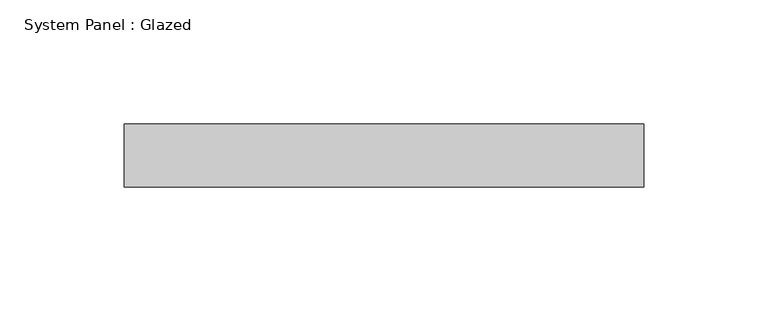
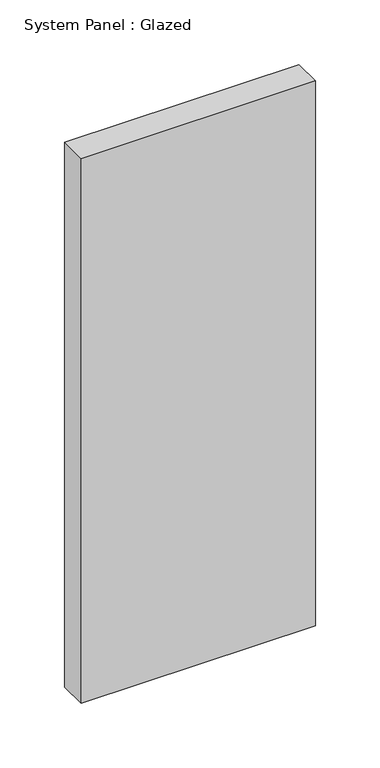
"""IFC4 building model written with IfcOpenShell, lengths in millimetres: plate geometry, System Panel : Glazed."""

from ifc_helpers import new_model, si_unit, origin, origin_with_axes, place, context, project, spatial, polyline, outline, extrude, source, transform, mapped, element, save


def system_panel_glazed_4e36cd67(model_context):
    return source(origin(), model_context, "Body", "SweptSolid", [
        extrude(outline(polyline([(104.775, -44.45), (-104.775, -44.45), (-104.775, -19.05), (104.775, -19.05), (104.775, -44.45)])), origin_with_axes(), (0.0, 0.0, 1.0), 514.35),
    ])


if __name__ == "__main__":
    model = new_model("IFC4")
    model_context = context("Model", 3, world=origin())
    ifc_project = project(units=[si_unit("LENGTHUNIT", "METRE", prefix="MILLI")], contexts=[model_context])
    site = spatial("IfcSite", under=ifc_project)
    building = spatial("IfcBuilding", under=site)
    placement = place(None, origin())
    system_panel_glazed_shape = system_panel_glazed_4e36cd67(model_context)
    element("IfcPlate", 1, ObjectType="System Panel : Glazed", at=placement, inside=building, context=model_context, shape_type="MappedRepresentation", body=[
        mapped(system_panel_glazed_shape, transform((0.0, 0.0, 0.0), x_axis=(1.0, 0.0, 0.0), y_axis=(0.0, 1.0, 0.0), z_axis=(0.0, 0.0, 1.0))),
    ])
    save(model, "model.ifc")
